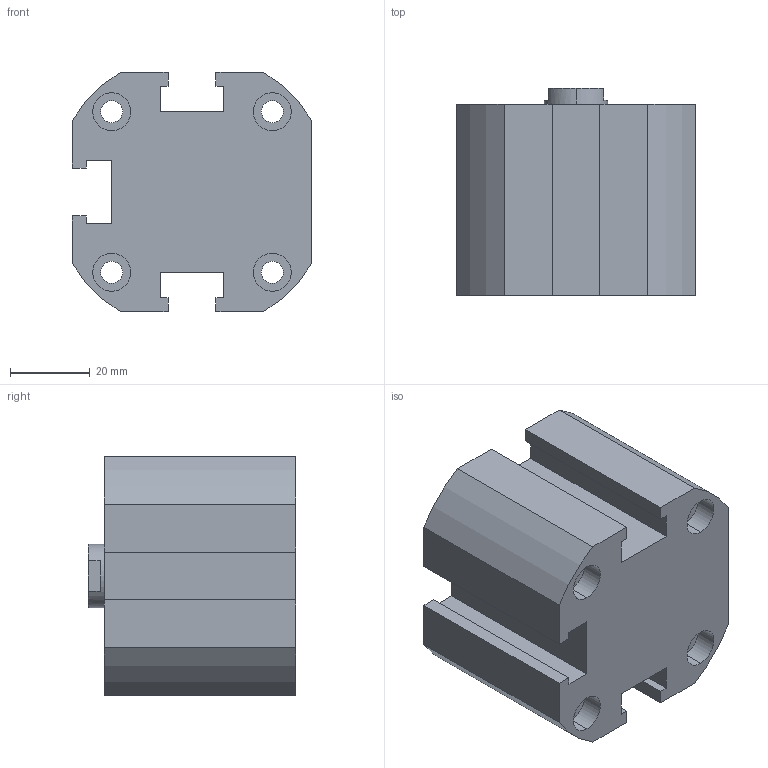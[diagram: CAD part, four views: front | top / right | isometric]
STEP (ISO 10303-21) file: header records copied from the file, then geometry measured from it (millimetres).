
FILE_DESCRIPTION (( 'STEP AP203' ), '1' );
FILE_NAME ('XG#2-40D-10.STEP', '2016-05-24T01:48:40', ( '' ), ( '' ), 'SwSTEP 2.0', 'SolidWorks 2014', '' );
FILE_SCHEMA (( 'CONFIG_CONTROL_DESIGN' ));
Length unit declared in the file: millimetre
Products named in the file (1): XG#2-40D-10
Bounding box: 60 x 52 x 60 mm (x, y, z)
Volume: 132146.3 mm3; surface area: 25213.3 mm2
Topology: 1 solids, 1 shells, 114 faces, 283 edges, 183 vertices
Faces by surface type: cylinder 54, plane 50, cone 10
Entity records: 3474 total; most frequent: DIRECTION 627, CARTESIAN_POINT 575, ORIENTED_EDGE 554, EDGE_CURVE 277, AXIS2_PLACEMENT_3D 235, VERTEX_POINT 183, VECTOR 157, LINE 157
